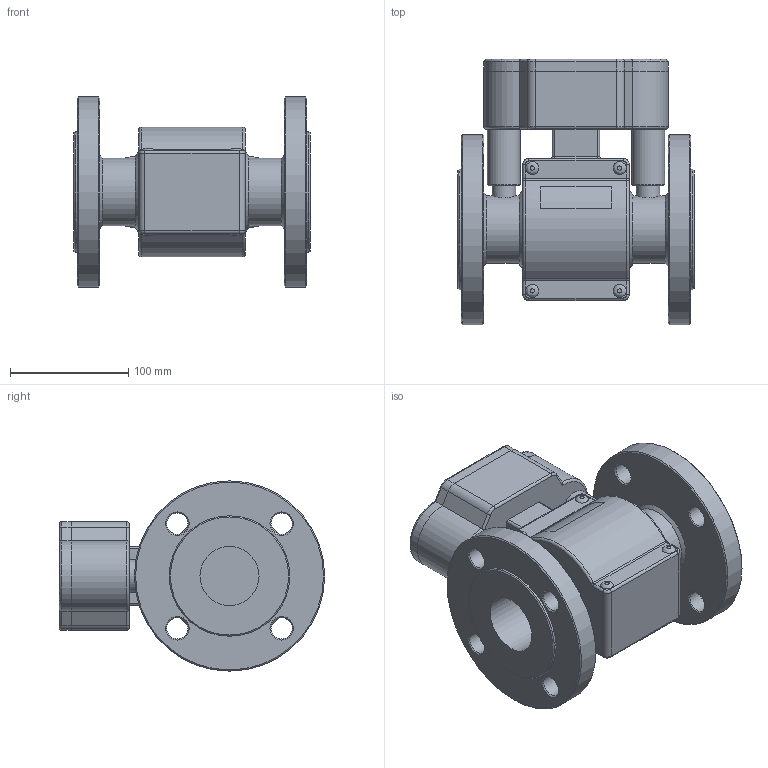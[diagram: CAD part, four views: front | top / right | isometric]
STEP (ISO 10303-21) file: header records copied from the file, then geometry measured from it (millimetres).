
FILE_DESCRIPTION(('STEP AP214'), '1');
FILE_NAME('50 È6', '2015-07-24T11:41:20', (''), (''), 'ASCON STEP Converter 1.3', 'ASCON Math Kernel', '');
FILE_SCHEMA(('AUTOMOTIVE_DESIGN { 1 0 10303 214 3 1 1}'));
Length unit declared in the file: millimetre
Products named in the file (1): 4
Bounding box: 200 x 224.5 x 161 mm (x, y, z)
Volume: 2498883.1 mm3; surface area: 257252.8 mm2
Topology: 2 solids, 2 shells, 500 faces, 1275 edges, 818 vertices
Faces by surface type: cylinder 251, plane 173, torus 36, cone 32, bspline 8
Full cylindrical faces by diameter (mm): 6 x1, 7 x4, 18 x8, 20 x2, 28 x2, 50 x2, 57 x2, 102 x2, 161 x2
Entity records: 21840 total; most frequent: CARTESIAN_POINT 5770, DIRECTION 2744, ORIENTED_EDGE 2416, EDGE_CURVE 1208, AXIS2_PLACEMENT_3D 1074, VERTEX_POINT 818, EDGE_LOOP 626, LINE 596
